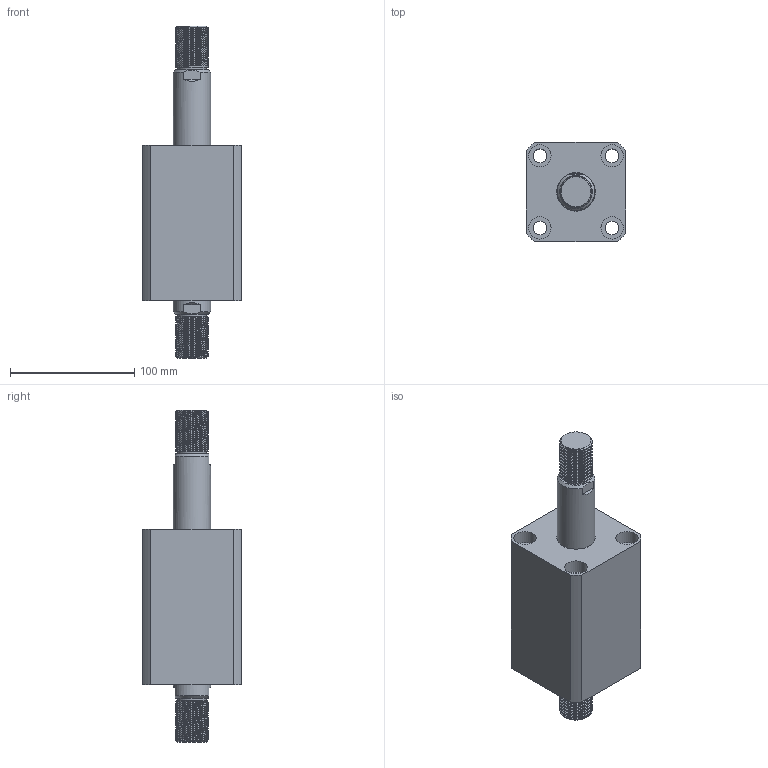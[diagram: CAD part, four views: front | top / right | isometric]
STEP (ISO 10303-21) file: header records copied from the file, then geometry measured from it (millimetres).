
FILE_DESCRIPTION(/* description */ (''),/* implementation_level */ '2;1');
FILE_NAME(/* name */ 'CHTB-SW50-50W.stp',/* time_stamp */ '2022-04-29T18:29:48+08:00',/* author */ (''),/* organization */ (''),/* preprocessor_version */ 'ST-DEVELOPER v16.7',/* originating_system */ 'SIEMENS PLM Software NX 12.0',/* authorisation */ '');
FILE_SCHEMA (('AUTOMOTIVE_DESIGN { 1 0 10303 214 3 1 1 1 }'));
Length unit declared in the file: millimetre
Products named in the file (1): CHTB-SW50-50W
Bounding box: 80 x 80 x 267 mm (x, y, z)
Volume: 741311.3 mm3; surface area: 137565.4 mm2
Topology: 3 solids, 3 shells, 450 faces, 1393 edges, 1003 vertices
Faces by surface type: plane 282, extrusion 79, cylinder 55, cone 14, torus 12, bspline 8
Full cylindrical faces by diameter (mm): 4 x2, 4.2 x2, 10.7 x2, 11 x4, 18 x8, 23 x2, 30 x4, 39 x1, 45 x1, 46 x1, 50 x6, 55 x9, 59 x1
Entity records: 25943 total; most frequent: CARTESIAN_POINT 12603, ORIENTED_EDGE 2598, DIRECTION 1771, EDGE_CURVE 1299, VERTEX_POINT 985, VECTOR 817, LINE 738, EDGE_LOOP 576
